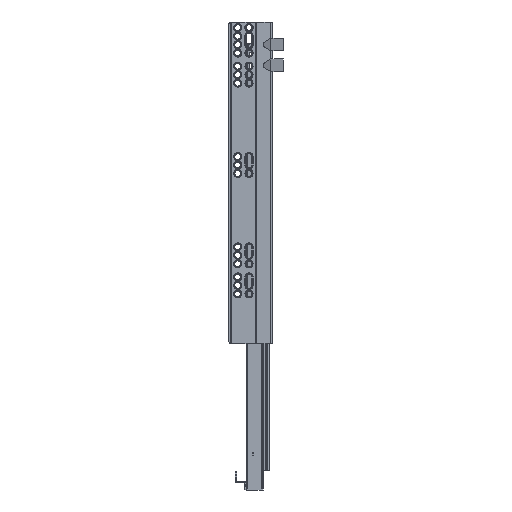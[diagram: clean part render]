
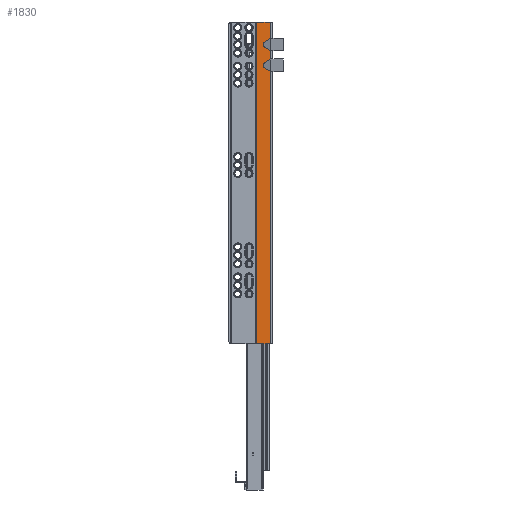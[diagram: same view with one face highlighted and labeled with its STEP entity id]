
A CAD part, left-side view. The second image highlights one B-rep face of the part: STEP entity #1830.
In plain terms, the highlighted planar face has unit normal (-1, 0, 0) as drawn and (1, 0, 0) by its records, which use the part's own axes.
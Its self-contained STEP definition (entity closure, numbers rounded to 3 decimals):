
#123 = CARTESIAN_POINT ( 'NONE',  ( 35.7, 4.6, 342. ) ) ;
#329 = LINE ( 'NONE', #25448, #23847 ) ;
#800 = VERTEX_POINT ( 'NONE', #25123 ) ;
#838 = CARTESIAN_POINT ( 'NONE',  ( 35.7, -6.499, 19.762 ) ) ;
#1830 = ADVANCED_FACE ( 'NONE', ( #17019 ), #48384, .T. ) ;
#2706 = VECTOR ( 'NONE', #45749, 1000. ) ;
#3322 = CARTESIAN_POINT ( 'NONE',  ( 35.7, -9.9, 51.866 ) ) ;
#3457 = CARTESIAN_POINT ( 'NONE',  ( 35.7, -4.713, 49.383 ) ) ;
#3944 = LINE ( 'NONE', #29048, #18908 ) ;
#5508 =( BOUNDED_CURVE ( )  B_SPLINE_CURVE ( 3, ( #838, #33356, #8305, #40867 ),
 .UNSPECIFIED., .F., .F. ) 
 B_SPLINE_CURVE_WITH_KNOTS ( ( 4, 4 ),
 ( 5.201, 6.283 ),
 .UNSPECIFIED. ) 
 CURVE ( )  GEOMETRIC_REPRESENTATION_ITEM ( )  RATIONAL_B_SPLINE_CURVE ( ( 1., 0.905, 0.905, 1. ) ) 
 REPRESENTATION_ITEM ( '' )  );
#5526 = DIRECTION ( 'NONE',  ( 0., -0.902, 0.432 ) ) ;
#5774 = CARTESIAN_POINT ( 'NONE',  ( 35.7, -4.713, 42.617 ) ) ;
#6426 = CARTESIAN_POINT ( 'NONE',  ( 35.7, -6.499, 41.762 ) ) ;
#7156 = ORIENTED_EDGE ( 'NONE', *, *, #23441, .F. ) ;
#8163 = CARTESIAN_POINT ( 'NONE',  ( 35.7, -3.671, 25.822 ) ) ;
#8305 = CARTESIAN_POINT ( 'NONE',  ( 35.7, -3.671, 22.178 ) ) ;
#8681 = VECTOR ( 'NONE', #44983, 1000. ) ;
#9921 = EDGE_CURVE ( 'NONE', #22509, #53337, #329, .T. ) ;
#9966 = CARTESIAN_POINT ( 'NONE',  ( 35.7, -9.9, 342. ) ) ;
#11355 = CARTESIAN_POINT ( 'NONE',  ( 35.7, 4.6, 0. ) ) ;
#11743 = VERTEX_POINT ( 'NONE', #50033 ) ;
#12427 = CARTESIAN_POINT ( 'NONE',  ( 35.7, -5.936, 42.031 ) ) ;
#12608 = EDGE_CURVE ( 'NONE', #11743, #27468, #13265, .T. ) ;
#13004 = LINE ( 'NONE', #45545, #52415 ) ;
#13202 = CARTESIAN_POINT ( 'NONE',  ( 35.7, -3.671, 46. ) ) ;
#13219 = CARTESIAN_POINT ( 'NONE',  ( 35.7, -9.268, 29.564 ) ) ;
#13265 = LINE ( 'NONE', #45785, #47082 ) ;
#13711 = ORIENTED_EDGE ( 'NONE', *, *, #55624, .T. ) ;
#13827 = VERTEX_POINT ( 'NONE', #56383 ) ;
#14468 = ORIENTED_EDGE ( 'NONE', *, *, #17165, .F. ) ;
#15378 = CARTESIAN_POINT ( 'NONE',  ( 35.7, -6.499, 28.238 ) ) ;
#16141 = ORIENTED_EDGE ( 'NONE', *, *, #12608, .F. ) ;
#16162 = VECTOR ( 'NONE', #5526, 1000. ) ;
#17019 = FACE_OUTER_BOUND ( 'NONE', #30839, .T. ) ;
#17165 = EDGE_CURVE ( 'NONE', #46232, #800, #36107, .T. ) ;
#18205 = ORIENTED_EDGE ( 'NONE', *, *, #48480, .F. ) ;
#18805 = LINE ( 'NONE', #11355, #54467 ) ;
#18908 = VECTOR ( 'NONE', #39249, 1000. ) ;
#19000 = VERTEX_POINT ( 'NONE', #38157 ) ;
#19019 = CARTESIAN_POINT ( 'NONE',  ( 35.7, -3.671, 24. ) ) ;
#20478 = DIRECTION ( 'NONE',  ( 0., 0., -1. ) ) ;
#20553 = CARTESIAN_POINT ( 'NONE',  ( 35.7, 4.559, 0. ) ) ;
#20725 = DIRECTION ( 'NONE',  ( 0., 0., -1. ) ) ;
#21095 = EDGE_CURVE ( 'NONE', #56656, #30430, #5508, .T. ) ;
#21105 = VECTOR ( 'NONE', #57436, 1000. ) ;
#21356 = ORIENTED_EDGE ( 'NONE', *, *, #9921, .T. ) ;
#22108 = VERTEX_POINT ( 'NONE', #42489 ) ;
#22509 = VERTEX_POINT ( 'NONE', #9966 ) ;
#23065 = CARTESIAN_POINT ( 'NONE',  ( 35.7, -3.671, 24. ) ) ;
#23278 = CARTESIAN_POINT ( 'NONE',  ( 35.7, 4.6, 541. ) ) ;
#23310 = LINE ( 'NONE', #123, #55687 ) ;
#23441 = EDGE_CURVE ( 'NONE', #39000, #22108, #38302, .T. ) ;
#23847 = VECTOR ( 'NONE', #50630, 1000. ) ;
#24897 = CARTESIAN_POINT ( 'NONE',  ( 35.7, -9.9, 541. ) ) ;
#25123 = CARTESIAN_POINT ( 'NONE',  ( 35.7, -6.499, 50.238 ) ) ;
#25448 = CARTESIAN_POINT ( 'NONE',  ( 35.7, -9.9, 541. ) ) ;
#25622 = EDGE_CURVE ( 'NONE', #19000, #44729, #37519, .T. ) ;
#27468 = VERTEX_POINT ( 'NONE', #20553 ) ;
#29048 = CARTESIAN_POINT ( 'NONE',  ( 35.7, -5.936, 20.031 ) ) ;
#30430 = VERTEX_POINT ( 'NONE', #19019 ) ;
#30589 = CARTESIAN_POINT ( 'NONE',  ( 35.7, -9.268, 51.564 ) ) ;
#30681 = DIRECTION ( 'NONE',  ( 0., 1., 0. ) ) ;
#30839 = EDGE_LOOP ( 'NONE', ( #13711, #21356, #34886, #14468, #40521, #51372, #52726, #7156, #33900, #31143, #18205, #52640, #31147, #16141 ) ) ;
#30852 = CARTESIAN_POINT ( 'NONE',  ( 35.7, -6.499, 41.762 ) ) ;
#31143 = ORIENTED_EDGE ( 'NONE', *, *, #21095, .F. ) ;
#31147 = ORIENTED_EDGE ( 'NONE', *, *, #39744, .T. ) ;
#32970 = CARTESIAN_POINT ( 'NONE',  ( 35.7, -3.671, 46. ) ) ;
#33200 = CARTESIAN_POINT ( 'NONE',  ( 35.7, -4.713, 27.383 ) ) ;
#33356 = CARTESIAN_POINT ( 'NONE',  ( 35.7, -4.713, 20.617 ) ) ;
#33598 = DIRECTION ( 'NONE',  ( 0., -1., 0. ) ) ;
#33900 = ORIENTED_EDGE ( 'NONE', *, *, #47089, .F. ) ;
#33962 = CARTESIAN_POINT ( 'NONE',  ( 35.7, -9.9, 0. ) ) ;
#34886 = ORIENTED_EDGE ( 'NONE', *, *, #57525, .F. ) ;
#35426 = AXIS2_PLACEMENT_3D ( 'NONE', #23278, #55861, #30681 ) ;
#36013 = CARTESIAN_POINT ( 'NONE',  ( 35.7, -6.499, 28.238 ) ) ;
#36107 =( BOUNDED_CURVE ( )  B_SPLINE_CURVE ( 3, ( #56496, #52763, #3457, #56535 ),
 .UNSPECIFIED., .F., .F. ) 
 B_SPLINE_CURVE_WITH_KNOTS ( ( 4, 4 ),
 ( 0., 1.082 ),
 .UNSPECIFIED. ) 
 CURVE ( )  GEOMETRIC_REPRESENTATION_ITEM ( )  RATIONAL_B_SPLINE_CURVE ( ( 1., 0.905, 0.905, 1. ) ) 
 REPRESENTATION_ITEM ( '' )  );
#36424 = DIRECTION ( 'NONE',  ( 0., 1., 0. ) ) ;
#36510 = EDGE_CURVE ( 'NONE', #13827, #41906, #13004, .T. ) ;
#36752 =( BOUNDED_CURVE ( )  B_SPLINE_CURVE ( 3, ( #23065, #8163, #33200, #36013 ),
 .UNSPECIFIED., .F., .F. ) 
 B_SPLINE_CURVE_WITH_KNOTS ( ( 4, 4 ),
 ( 0., 1.082 ),
 .UNSPECIFIED. ) 
 CURVE ( )  GEOMETRIC_REPRESENTATION_ITEM ( )  RATIONAL_B_SPLINE_CURVE ( ( 1., 0.905, 0.905, 1. ) ) 
 REPRESENTATION_ITEM ( '' )  );
#37519 = LINE ( 'NONE', #12427, #8681 ) ;
#38157 = CARTESIAN_POINT ( 'NONE',  ( 35.7, -9.9, 40.134 ) ) ;
#38285 = CARTESIAN_POINT ( 'NONE',  ( 35.7, -3.671, 44.178 ) ) ;
#38302 = LINE ( 'NONE', #13219, #2706 ) ;
#39000 = VERTEX_POINT ( 'NONE', #15378 ) ;
#39249 = DIRECTION ( 'NONE',  ( 0., 0.902, 0.432 ) ) ;
#39744 = EDGE_CURVE ( 'NONE', #41906, #27468, #18805, .T. ) ;
#40138 = EDGE_CURVE ( 'NONE', #44729, #46232, #52133, .T. ) ;
#40521 = ORIENTED_EDGE ( 'NONE', *, *, #40138, .F. ) ;
#40867 = CARTESIAN_POINT ( 'NONE',  ( 35.7, -3.671, 24. ) ) ;
#41906 = VERTEX_POINT ( 'NONE', #33962 ) ;
#42489 = CARTESIAN_POINT ( 'NONE',  ( 35.7, -9.9, 29.866 ) ) ;
#42594 = EDGE_CURVE ( 'NONE', #19000, #22108, #50062, .T. ) ;
#44729 = VERTEX_POINT ( 'NONE', #6426 ) ;
#44983 = DIRECTION ( 'NONE',  ( 0., 0.902, 0.432 ) ) ;
#45545 = CARTESIAN_POINT ( 'NONE',  ( 35.7, -9.9, 541. ) ) ;
#45749 = DIRECTION ( 'NONE',  ( 0., -0.902, 0.432 ) ) ;
#45785 = CARTESIAN_POINT ( 'NONE',  ( 35.7, 4.559, 541. ) ) ;
#46232 = VERTEX_POINT ( 'NONE', #32970 ) ;
#47082 = VECTOR ( 'NONE', #20725, 1000. ) ;
#47089 = EDGE_CURVE ( 'NONE', #30430, #39000, #36752, .T. ) ;
#48384 = PLANE ( 'NONE',  #35426 ) ;
#48480 = EDGE_CURVE ( 'NONE', #13827, #56656, #3944, .T. ) ;
#50033 = CARTESIAN_POINT ( 'NONE',  ( 35.7, 4.559, 342. ) ) ;
#50062 = LINE ( 'NONE', #24897, #21105 ) ;
#50630 = DIRECTION ( 'NONE',  ( 0., 0., -1. ) ) ;
#51372 = ORIENTED_EDGE ( 'NONE', *, *, #25622, .F. ) ;
#52133 =( BOUNDED_CURVE ( )  B_SPLINE_CURVE ( 3, ( #30852, #5774, #38285, #13202 ),
 .UNSPECIFIED., .F., .F. ) 
 B_SPLINE_CURVE_WITH_KNOTS ( ( 4, 4 ),
 ( 5.201, 6.283 ),
 .UNSPECIFIED. ) 
 CURVE ( )  GEOMETRIC_REPRESENTATION_ITEM ( )  RATIONAL_B_SPLINE_CURVE ( ( 1., 0.905, 0.905, 1. ) ) 
 REPRESENTATION_ITEM ( '' )  );
#52415 = VECTOR ( 'NONE', #20478, 1000. ) ;
#52640 = ORIENTED_EDGE ( 'NONE', *, *, #36510, .T. ) ;
#52726 = ORIENTED_EDGE ( 'NONE', *, *, #42594, .T. ) ;
#52763 = CARTESIAN_POINT ( 'NONE',  ( 35.7, -3.671, 47.822 ) ) ;
#53337 = VERTEX_POINT ( 'NONE', #3322 ) ;
#54467 = VECTOR ( 'NONE', #36424, 1000. ) ;
#55624 = EDGE_CURVE ( 'NONE', #11743, #22509, #23310, .T. ) ;
#55687 = VECTOR ( 'NONE', #33598, 1000. ) ;
#55771 = LINE ( 'NONE', #30589, #16162 ) ;
#55861 = DIRECTION ( 'NONE',  ( 1., 0., 0. ) ) ;
#56383 = CARTESIAN_POINT ( 'NONE',  ( 35.7, -9.9, 18.134 ) ) ;
#56496 = CARTESIAN_POINT ( 'NONE',  ( 35.7, -3.671, 46. ) ) ;
#56535 = CARTESIAN_POINT ( 'NONE',  ( 35.7, -6.499, 50.238 ) ) ;
#56656 = VERTEX_POINT ( 'NONE', #56764 ) ;
#56764 = CARTESIAN_POINT ( 'NONE',  ( 35.7, -6.499, 19.762 ) ) ;
#57436 = DIRECTION ( 'NONE',  ( 0., 0., -1. ) ) ;
#57525 = EDGE_CURVE ( 'NONE', #800, #53337, #55771, .T. ) ;
